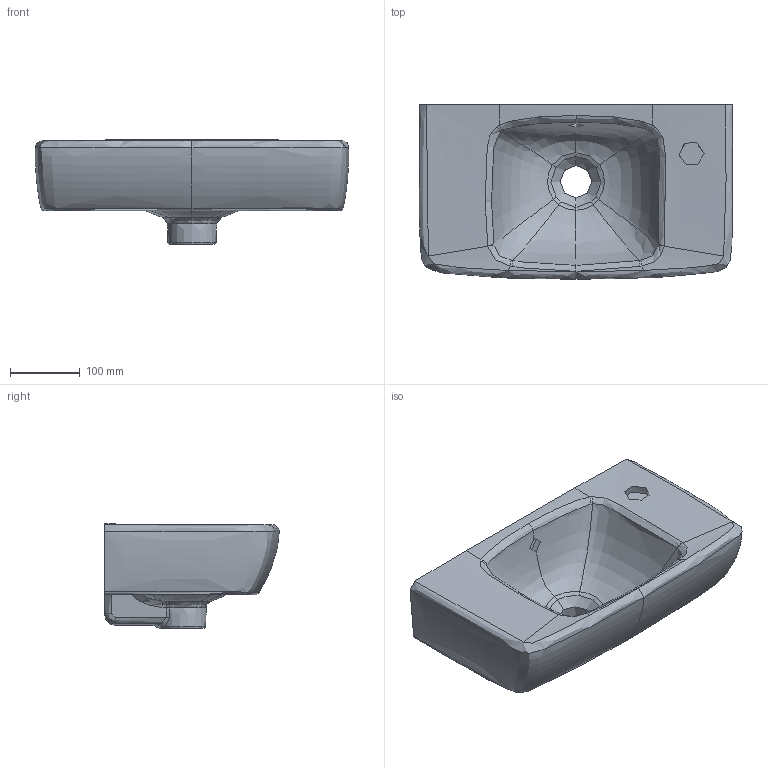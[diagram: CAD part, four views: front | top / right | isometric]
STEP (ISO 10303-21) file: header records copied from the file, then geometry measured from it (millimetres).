
FILE_DESCRIPTION(/* description */ (''),/* implementation_level */ '2;1');
FILE_NAME(/* name */ 'C:\Planerdaten\Export PLA\500.318.01.1\stp\500318.stp',/* time_stamp */ '2020-04-30T12:20:34+02:00',/* author */ ('JANAN'),/* organization */ (''),/* preprocessor_version */ 'ST-DEVELOPER v16.13',/* originating_system */ 'Autodesk Inventor 2018',/* authorisation */ '');
FILE_SCHEMA (('AUTOMOTIVE_DESIGN { 1 0 10303 214 3 1 1 }'));
Products named in the file (1): HWB Ge+SnvCp B45 m/ÜLF m/HLo-re vkA
Bounding box: 449.46 x 250 x 149.61 mm (x, y, z)
Volume: 7162385.1 mm3; surface area: 393697.7 mm2
Topology: 1 solids, 1 shells, 112 faces, 268 edges, 160 vertices
Faces by surface type: bspline 87, plane 12, cylinder 9, sphere 2, cone 1, torus 1
Full cylindrical faces by diameter (mm): 46 x1
Entity records: 35358 total; most frequent: CARTESIAN_POINT 33220, ORIENTED_EDGE 530, EDGE_CURVE 265, DIRECTION 227, VERTEX_POINT 159, B_SPLINE_CURVE_WITH_KNOTS 153, EDGE_LOOP 118, STYLED_ITEM 113
